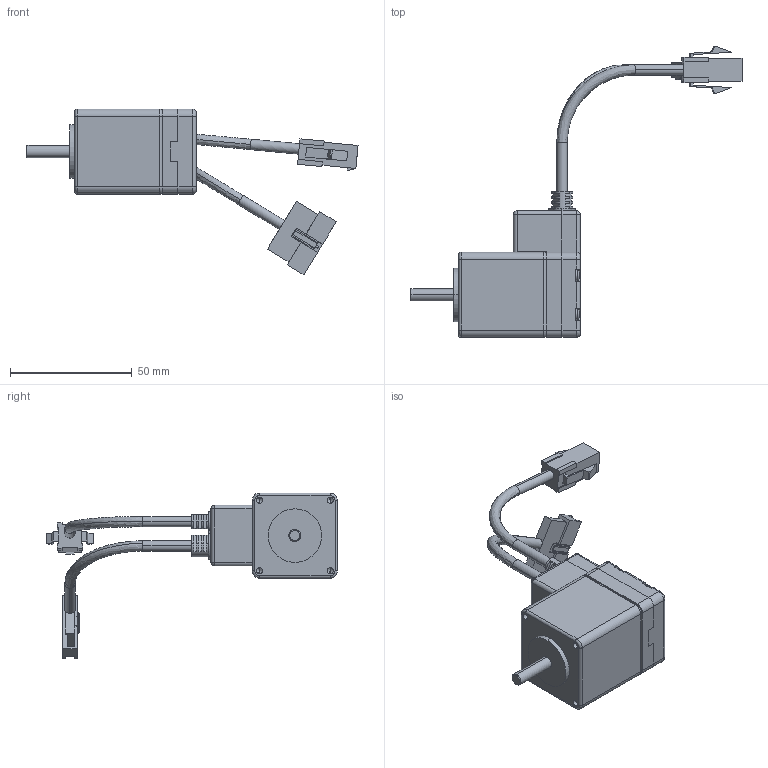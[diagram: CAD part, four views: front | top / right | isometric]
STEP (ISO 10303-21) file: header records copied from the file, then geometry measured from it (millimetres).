
FILE_DESCRIPTION (( 'STEP AP203' ), '1' );
FILE_NAME ('P11-MO-035-08-R00.STEP', '2018-02-01T00:10:37', ( '' ), ( '' ), 'SwSTEP 2.0', 'SolidWorks 2013', '' );
FILE_SCHEMA (( 'CONFIG_CONTROL_DESIGN' ));
Length unit declared in the file: millimetre
Products named in the file (9): M11-EC-035-02-R00_ル遽; pan cross head_ks_KS 1023 PC- M2.6 x 14-N; 35L; S6B-PH-K-S; M11-MO-035-12-R00; P11-MO-035-08-R00; 35陝 賅攪瞪錳摹_ル遽; 35阿 浚内歹 纳捞喉急_钎霖; M11-EC-035-01-R00_ル遽
Assembly tree (11 placements, depth 3):
  P11-MO-035-08-R00
    35陝 賅攪瞪錳摹_ル遽
    35阿 浚内歹 纳捞喉急_钎霖
    M11-EC-035-01-R00_ル遽
    M11-EC-035-02-R00_ル遽
    pan cross head_ks_KS 1023 PC- M2.6 x 14-N  x4
    M11-MO-035-12-R00
      35L
      S6B-PH-K-S
Bounding box: 136.52 x 119.61 x 68.25 mm (x, y, z)
Volume: 61161.2 mm3; surface area: 29754.1 mm2
Topology: 10 solids, 10 shells, 828 faces, 2148 edges, 1353 vertices
Faces by surface type: plane 477, cylinder 196, cone 111, torus 28, sphere 12, bspline 4
Entity records: 23170 total; most frequent: CARTESIAN_POINT 3943, DIRECTION 3883, ORIENTED_EDGE 3740, EDGE_CURVE 1870, VECTOR 1299, LINE 1299, AXIS2_PLACEMENT_3D 1292, VERTEX_POINT 1200
